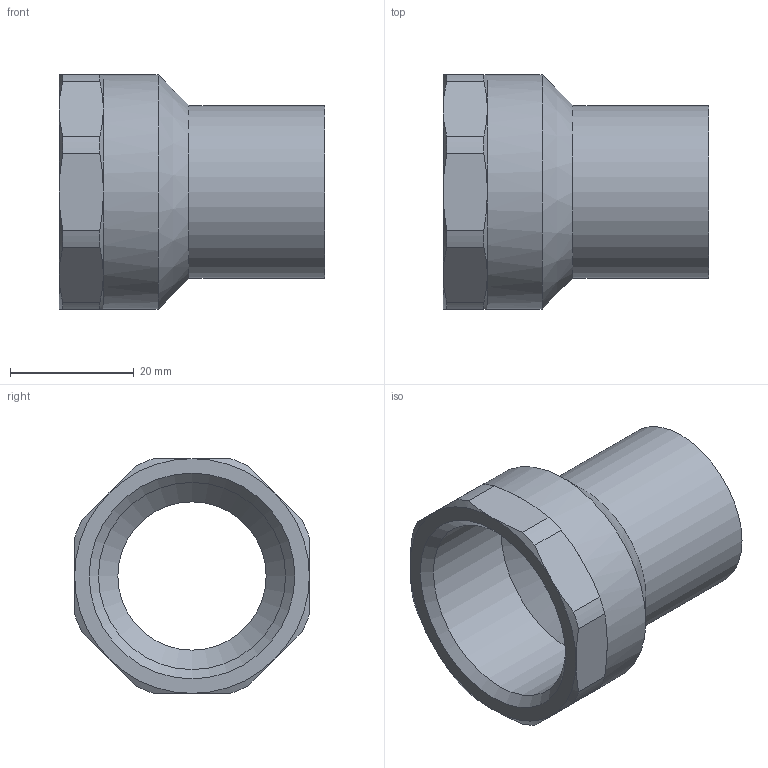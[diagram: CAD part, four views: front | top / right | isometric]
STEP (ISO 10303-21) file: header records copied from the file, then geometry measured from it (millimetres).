
FILE_DESCRIPTION((''),'2;1');
FILE_NAME('C:\Documents and Settings\pajchrowski\Desktop\STEP\14246_28-1(2).stp','2009-02-02T15:56:07',('pajchrowski'),(''),'Autodesk Inventor 2009','Autodesk Inventor 2009','');
FILE_SCHEMA(('AUTOMOTIVE_DESIGN { 1 0 10303 214 1 1 1 1 }'));
Length unit declared in the file: millimetre
Products named in the file (1): 14246_28-1(2)
Bounding box: 43 x 38 x 38 mm (x, y, z)
Volume: 11845.2 mm3; surface area: 8889.3 mm2
Topology: 1 solids, 1 shells, 41 faces, 95 edges, 56 vertices
Faces by surface type: cone 19, cylinder 12, plane 10
Full cylindrical faces by diameter (mm): 24 x1, 28 x1, 30.291 x1, 38 x1
Entity records: 1116 total; most frequent: CARTESIAN_POINT 250, DIRECTION 180, ORIENTED_EDGE 176, EDGE_CURVE 88, AXIS2_PLACEMENT_3D 82, VERTEX_POINT 56, EDGE_LOOP 50, FACE_OUTER_BOUND 41
